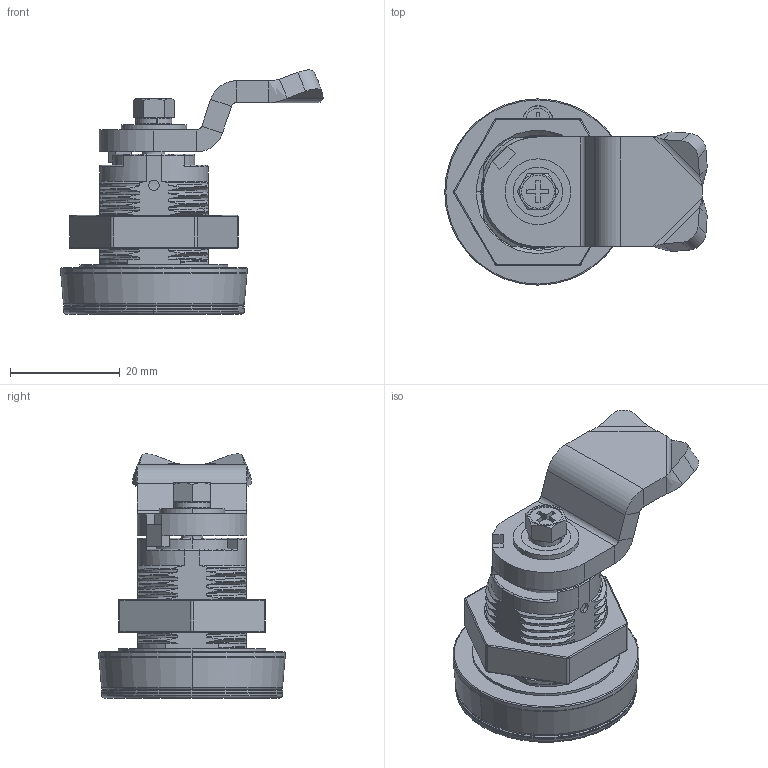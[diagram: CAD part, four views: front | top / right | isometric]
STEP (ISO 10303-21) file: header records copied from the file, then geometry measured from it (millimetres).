
FILE_DESCRIPTION((''),'2;1');
FILE_NAME('3SJ-MS758-0001_ASM','2016-07-06T',('master'),(''),'PRO/ENGINEER BY PARAMETRIC TECHNOLOGY CORPORATION, 2009060','PRO/ENGINEER BY PARAMETRIC TECHNOLOGY CORPORATION, 2009060','');
FILE_SCHEMA(('CONFIG_CONTROL_DESIGN'));
Products named in the file (23): 8SJ-MS758-0010; 8SJ-MS758-0200; 8SJ-MS807-1-0512; FDL_SUOZHOU_1; 8SJ-MS705-0510; 8SJ-MS758-0590; FDL_FANGSHUIQUAN2_1; FDL_FANGSHUIQUAN_1; 8SJ-MS758-0550; FDL_LUODING_1; 1; 2; 8SJ-DS1V-0003_ASM; 8SJ-MS758-0711; D15-GB-T-893-1-1986; M2X5-GB-T-819-1-2000; 8SJ-MS758-0710; 8SJ-MS758-0701; 8SJ-MS758-0591; M4X10; 8SJ-MS758-0580; D4; 3SJ-MS758-0001_ASM
Assembly tree (36 placements, depth 3):
  3SJ-MS758-0001_ASM
    8SJ-MS758-0010
    8SJ-MS758-0200
    8SJ-MS807-1-0512
    FDL_SUOZHOU_1
    8SJ-MS705-0510
    8SJ-MS758-0590
    FDL_FANGSHUIQUAN2_1
    FDL_FANGSHUIQUAN_1
    8SJ-MS758-0550
    FDL_LUODING_1
    8SJ-DS1V-0003_ASM
      1
      2
    8SJ-MS758-0711
    D15-GB-T-893-1-1986
    M2X5-GB-T-819-1-2000
    8SJ-MS758-0710  x8
    8SJ-MS758-0701  x8
    8SJ-MS758-0591
    M4X10
    8SJ-MS758-0580
    D4
Bounding box: 47.91 x 34 x 44.57 mm (x, y, z)
Volume: 21117.2 mm3; surface area: 16926.3 mm2
Topology: 37 solids, 37 shells, 1123 faces, 2651 edges, 1620 vertices
Faces by surface type: cylinder 358, bspline 295, plane 263, cone 91, torus 76, sphere 40
Entity records: 62900 total; most frequent: CARTESIAN_POINT 41896, ORIENTED_EDGE 4410, DIRECTION 4066, EDGE_CURVE 2205, AXIS2_PLACEMENT_3D 1589, VERTEX_POINT 1375, EDGE_LOOP 1000, FACE_OUTER_BOUND 913
